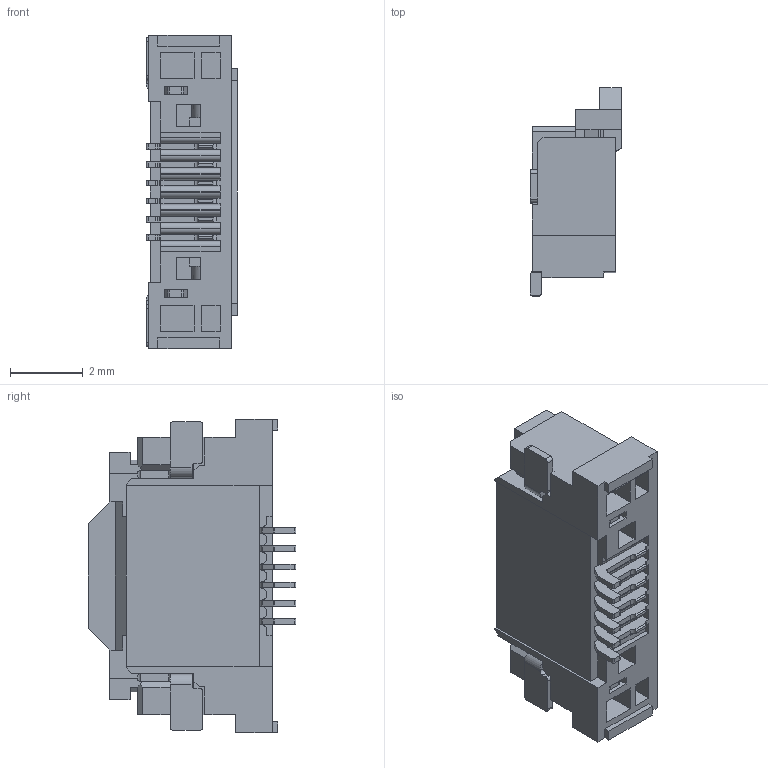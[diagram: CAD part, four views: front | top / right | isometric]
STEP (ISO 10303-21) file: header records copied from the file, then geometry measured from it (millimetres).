
FILE_DESCRIPTION((''),'2;1');
FILE_NAME('S-50520-006XX-XXX','2012-07-30T',('Rd_03'),(''),'PRO/ENGINEER BY PARAMETRIC TECHNOLOGY CORPORATION, 2011190','PRO/ENGINEER BY PARAMETRIC TECHNOLOGY CORPORATION, 2011190','');
FILE_SCHEMA(('CONFIG_CONTROL_DESIGN'));
Length unit declared in the file: millimetre
Products named in the file (1): S-50520-006XX-XXX
Bounding box: 2.51 x 5.7 x 8.6 mm (x, y, z)
Volume: 54 mm3; surface area: 310.6 mm2
Topology: 1 solids, 1 shells, 820 faces, 2588 edges, 1702 vertices
Faces by surface type: plane 574, cylinder 246
Entity records: 28776 total; most frequent: CARTESIAN_POINT 5236, ORIENTED_EDGE 5176, DIRECTION 4756, EDGE_CURVE 2588, VECTOR 1980, LINE 1980, VERTEX_POINT 1702, AXIS2_PLACEMENT_3D 1388
